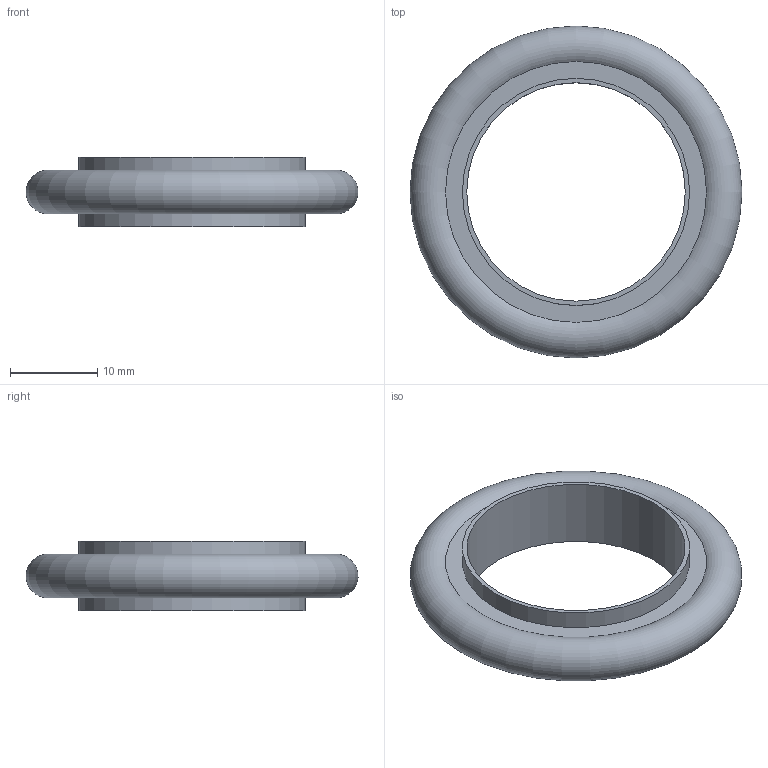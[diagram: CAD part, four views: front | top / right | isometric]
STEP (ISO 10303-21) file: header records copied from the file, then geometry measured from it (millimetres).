
FILE_DESCRIPTION( ( 'Unknown' ), '1' );
FILE_NAME( 'X:/Daten ( aktueller Bestand )/Projekte und Zeichnungen/Solid Edge/STP-Dateien/Dichtungsbauteile und Zubehör KF/1094.stp', 'Unknown', ( 'Unknown' ), ( 'Unknown' ), 'PSStep 14.0', 'Unknown', ' ' );
FILE_SCHEMA( ( 'AUTOMOTIVE_DESIGN { 1 0 10303 214 1 1 1 1 }' ) );
Length unit declared in the file: millimetre
Products named in the file (2): Assem1; 1
Assembly tree (1 placements, depth 2):
  Assem1
    1
Bounding box: 37.99 x 37.99 x 8 mm (x, y, z)
Volume: 2786.2 mm3; surface area: 2609 mm2
Topology: 1 solids, 1 shells, 8 faces, 12 edges, 8 vertices
Faces by surface type: plane 4, cylinder 3, torus 1
Full cylindrical faces by diameter (mm): 25 x1, 26 x2
Entity records: 270 total; most frequent: DIRECTION 36, CARTESIAN_POINT 26, AXIS2_PLACEMENT_3D 18, EDGE_LOOP 16, ORIENTED_EDGE 16, FACE_OUTER_BOUND 12, STYLED_ITEM 8, PRESENTATION_STYLE_ASSIGNMENT 8
